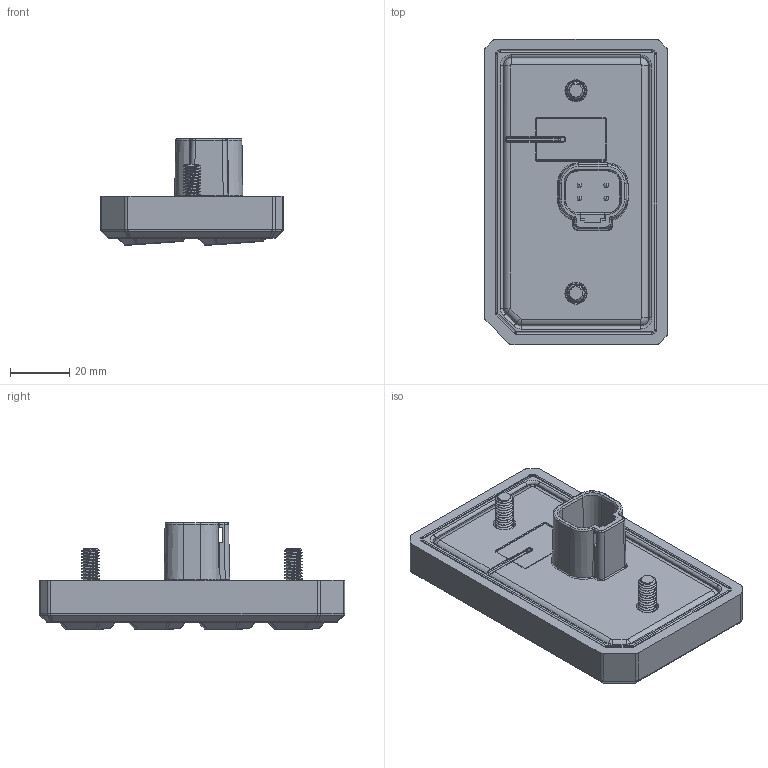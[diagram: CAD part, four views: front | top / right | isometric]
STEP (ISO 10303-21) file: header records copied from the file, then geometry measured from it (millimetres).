
FILE_DESCRIPTION (( 'STEP AP214' ), '1' );
FILE_NAME ('505202.STEP', '2021-01-04T22:34:41', ( '' ), ( '' ), 'SwSTEP 2.0', 'SolidWorks 2020', '' );
FILE_SCHEMA (( 'AUTOMOTIVE_DESIGN' ));
Length unit declared in the file: inch
Products named in the file (19): 505202; SNAPTRON F12340; 505202_SnapdomeArray; 16-1951-1 Rev.2.STEP.STEP; T3600-195G301.STEP.STEP; 505202_PCB; Pin.STEP; 505202_Keypad; RTV_505202; 715156 Triple LED Buffer; Backplate_505202; 93580A724_PRESS-FIT STUDS_93580A724; 505202_Snapdome_Array_Assembly
Assembly tree (36 placements, depth 4):
  505202
    505202_Keypad
    715156 Triple LED Buffer  x8
    Backplate_505202
    505202_PCB
    505202_Snapdome_Array_Assembly
      505202_SnapdomeArray
      SNAPTRON F12340  x8
    Pin.STEP
      16-1951-1 Rev.2.STEP.STEP
        T3600-195G301.STEP.STEP
    Pin.STEP
      16-1951-1 Rev.2.STEP.STEP
        T3600-195G301.STEP.STEP
    Pin.STEP
      16-1951-1 Rev.2.STEP.STEP
        T3600-195G301.STEP.STEP
    Pin.STEP
      16-1951-1 Rev.2.STEP.STEP
        T3600-195G301.STEP.STEP
    93580A724_PRESS-FIT STUDS_93580A724  x2
    RTV_505202
Bounding box: 61.85 x 103.38 x 36.18 mm (x, y, z)
Volume: 66898.7 mm3; surface area: 73791.5 mm2
Topology: 27 solids, 27 shells, 2771 faces, 6987 edges, 4291 vertices
Faces by surface type: cylinder 962, plane 816, bspline 414, torus 321, sphere 140, cone 118
Entity records: 81103 total; most frequent: CARTESIAN_POINT 25510, ORIENTED_EDGE 11914, DIRECTION 11285, EDGE_CURVE 5957, AXIS2_PLACEMENT_3D 4386, VERTEX_POINT 3669, EDGE_LOOP 2596, VECTOR 2513
